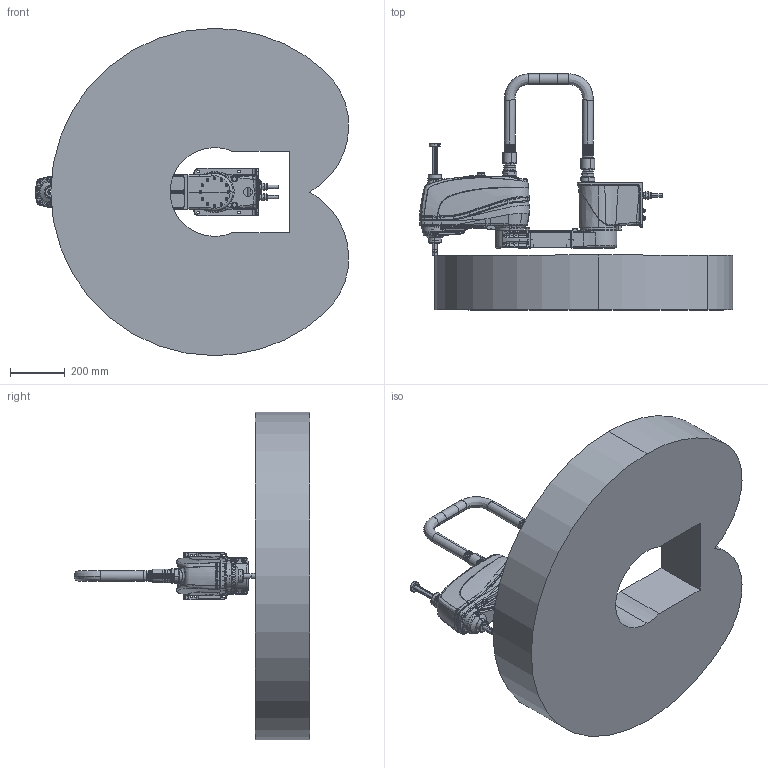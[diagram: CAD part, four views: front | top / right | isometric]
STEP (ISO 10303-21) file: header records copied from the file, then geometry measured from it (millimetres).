
FILE_DESCRIPTION (( 'STEP AP214' ), '1' );
FILE_NAME ('Rebel-S6-0.60c_p00.STEP', '2016-11-29T11:42:13', ( '' ), ( '' ), 'SwSTEP 2.0', 'SolidWorks 2014', '' );
FILE_SCHEMA (( 'AUTOMOTIVE_DESIGN' ));
Length unit declared in the file: millimetre
Products named in the file (17): Rebel-S6-0.60c_p16; Rebel-S6-0.60c_p15; Rebel-S6-0.60c_p13; Rebel-S6-0.60c_p12; Rebel-S6-0.60c_p11; Rebel-S6-0.60c_p10; Rebel-S6-0.60c_p09; Rebel-S6-0.60c_p08; Rebel-S6-0.60c_p07; Rebel-S6-0.60c_p06; Rebel-S6-0.60c_p05; Rebel-S6-0.60c_p04; Rebel-S6-0.60c_p03; Rebel-S6-0.60c_p02; Rebel-S6-0.60c_p01; Rebel-S6-0.60c_p00; Operation Area Rebel-S6-0.60c
Assembly tree (20 placements, depth 2):
  Rebel-S6-0.60c_p00
    Rebel-S6-0.60c_p01
    Rebel-S6-0.60c_p02
    Rebel-S6-0.60c_p03
    Rebel-S6-0.60c_p04
    Rebel-S6-0.60c_p05  x2
    Rebel-S6-0.60c_p06  x2
    Rebel-S6-0.60c_p07
    Rebel-S6-0.60c_p08
    Rebel-S6-0.60c_p09
    Rebel-S6-0.60c_p10  x2
    Rebel-S6-0.60c_p11  x2
    Rebel-S6-0.60c_p12
    Rebel-S6-0.60c_p13
    Rebel-S6-0.60c_p15
    Rebel-S6-0.60c_p16
    Operation Area Rebel-S6-0.60c
Bounding box: 1149.28 x 865 x 1200 mm (x, y, z)
Volume: 192644692.7 mm3; surface area: 4567403.7 mm2
Topology: 22 solids, 22 shells, 3140 faces, 7875 edges, 4965 vertices
Faces by surface type: plane 1237, cylinder 880, bspline 585, cone 438
Entity records: 312186 total; most frequent: CARTESIAN_POINT 216389, ORIENTED_EDGE 14584, DIRECTION 11133, EDGE_CURVE 7292, VERTEX_POINT 4674, AXIS2_PLACEMENT_3D 3895, LINE 3343, VECTOR 3343
